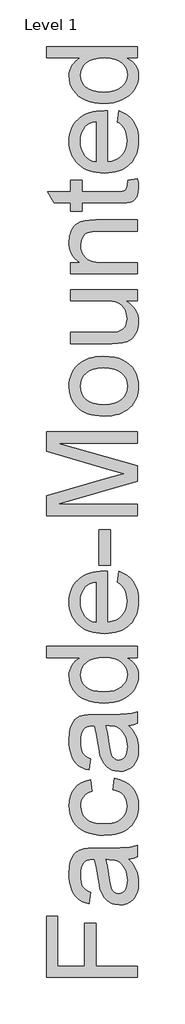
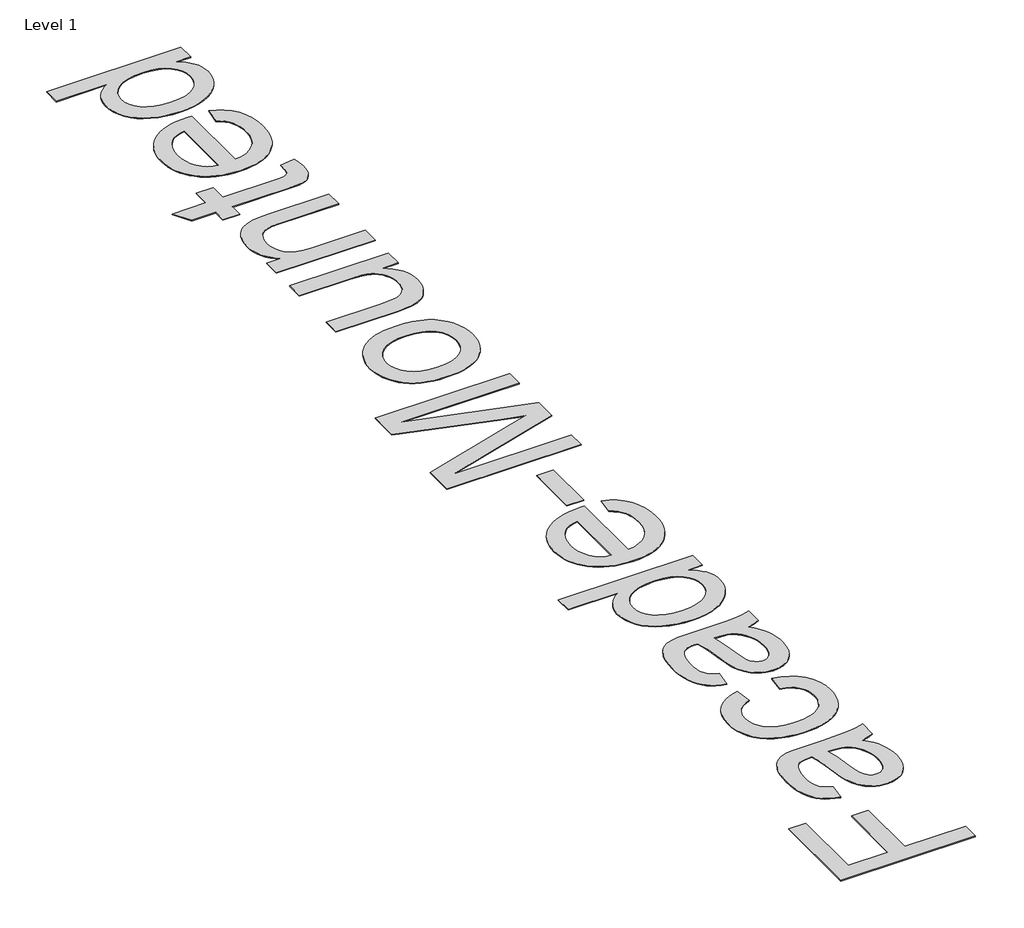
# One storey, part 20 of 47: 1 proxy.
"""IFC4 building model written with IfcOpenShell, lengths in millimetres."""

from ifc_helpers import new_model, si_unit, origin, origin_with_axes, place, context, project, spatial, polyline, outline, extrude, element, save

model = new_model("IFC4")

# Units and contexts
model_context = context("Model", 3, world=origin())
ifc_project = project(units=[si_unit("LENGTHUNIT", "METRE", prefix="MILLI")], contexts=[model_context])

# Site, building, storey
site = spatial("IfcSite", under=ifc_project)
building = spatial("IfcBuilding", under=site)
storey = spatial("IfcBuildingStorey", under=building, Name="Level 1", Elevation=0.0)

# Proxy
placement = place(None, origin())
element("IfcBuildingElementProxy", 1, Name="1000mm Arial", ObjectType="1000mm Arial", at=placement, inside=storey, context=model_context, shape_type="SweptSolid", body=[
    extrude(outline(polyline([(-21746.6295688, 35814.1157871), (-22751.1926703, 35814.1157871), (-22751.1926703, 36489.0566209), (-22625.6222826, 36489.0566209), (-22625.6222826, 35939.6861748), (-22327.3926119, 35939.6861748), (-22327.3926119, 36410.5751286), (-22201.8222242, 36410.5751286), (-22201.8222242, 35939.6861748), (-21746.6295688, 35939.6861748), (-21746.6295688, 35814.1157871)])), origin_with_axes(), (0.0, 0.0, 1.0), 5.0),
    extrude(outline(polyline([(-21840.8073596, 37116.9085593), (-21812.8636564, 37087.1331103), (-21789.3651939, 37056.9131373), (-21770.3119723, 37026.2486401), (-21755.7039914, 36995.1396189), (-21744.8668009, 36963.23352), (-21737.1259506, 36930.1777899), (-21732.4814404, 36895.9724286), (-21730.9332704, 36860.617436), (-21734.6580756, 36804.707037), (-21745.8324912, 36755.6790969), (-21764.4565172, 36713.5336158), (-21790.5301536, 36678.2705937), (-21822.3979314, 36650.4265252), (-21858.4043817, 36630.5379049), (-21898.5495044, 36618.6047326), (-21942.8332996, 36614.6270086), (-21994.8886019, 36620.6357478), (-22019.1228283, 36628.1466719), (-22042.1614383, 36638.6619656), (-22082.6284578, 36666.4677131), (-22114.2663093, 36701.8150414), (-22138.178639, 36743.35505), (-22155.4690928, 36789.7388383), (-22165.0953383, 36834.92701), (-22174.3537019, 36898.3866542), (-22194.2193296, 37026.7774705), (-22205.4397305, 37076.3495693), (-22217.5185227, 37116.1727953), (-22245.4775543, 37116.9085593), (-22275.9197894, 37114.7472526), (-22301.5182449, 37108.2633324), (-22322.2729208, 37097.4567988), (-22338.1838171, 37082.3276518), (-22354.0640565, 37056.1773733), (-22365.4070847, 37024.3249239), (-22372.2129016, 36986.7703035), (-22374.4815073, 36943.5135123), (-22372.9716582, 36903.2917475), (-22368.4421112, 36868.7108399), (-22360.8928661, 36839.7707896), (-22350.3239229, 36816.4715966), (-22335.9075472, 36797.3264044), (-22316.8160045, 36780.8483567), (-22293.0492948, 36767.0374535), (-22264.607418, 36755.8936947), (-22280.3037165, 36630.323307), (-22316.4787794, 36639.8805747), (-22348.9750223, 36652.1203152), (-22377.7924452, 36667.0425287), (-22402.9310482, 36684.647215), (-22424.896669, 36705.6931308), (-22444.1951454, 36730.9390327), (-22460.8264772, 36760.3849207), (-22474.7906646, 36794.0307949), (-22485.8424529, 36831.1945406), (-22493.7365874, 36871.1940434), (-22498.4730681, 36914.0293032), (-22500.051895, 36959.70032), (-22494.4723514, 37044.5890904), (-22487.4979219, 37080.4345923), (-22477.7337206, 37111.8808387), (-22452.5644607, 37162.6178972), (-22437.8415167, 37182.1692924), (-22421.69303, 37197.8425983), (-22383.525273, 37221.2031049), (-22336.4670344, 37236.3475804), (-22293.056959, 37240.9461054), (-22226.5929452, 37242.478947), (-22070.3657246, 37242.478947), (-21934.2800432, 37244.0731023), (-21852.2117014, 37248.8555683), (-21798.2863323, 37258.2978728), (-21746.6295688, 37273.8715439), (-21746.6295688, 37148.3011562), (-21790.2848989, 37128.1902738), (-21840.8073596, 37116.9085593)]), holes=[polyline([(-22091.948135, 37116.9085593), (-22071.0401749, 37032.5409551), (-22053.4431528, 36914.3282073), (-22043.8169073, 36849.1824373), (-22033.0870157, 36806.2935281), (-22019.1688136, 36778.1812123), (-21999.9776362, 36757.3652227), (-21976.9850115, 36744.4893529), (-21951.6624675, 36740.1973963), (-21932.1493933, 36742.5349798), (-21914.322445, 36749.5477303), (-21898.1816224, 36761.2356479), (-21883.7269257, 36777.5987324), (-21871.8167461, 36798.4836999), (-21863.309475, 36823.737266), (-21858.2051123, 36853.3594308), (-21856.5036581, 36887.3501943), (-21858.3813891, 36922.0537292), (-21864.0145821, 36954.7952268), (-21873.4032372, 36985.574687), (-21886.5473543, 37014.39211), (-21902.3586159, 37040.3891043), (-21919.7487044, 37062.7072787), (-21938.7176198, 37081.3466331), (-21959.265362, 37096.3071676), (-21977.6594618, 37104.9983797), (-21999.9776362, 37111.2063884), (-22056.3862088, 37116.1727953), (-22091.948135, 37116.9085593)])]), origin_with_axes(), (0.0, 0.0, 1.0), 5.0),
    extrude(outline(polyline([(-22013.4666427, 37886.0271839), (-21997.7703442, 38011.5975716), (-21938.5183504, 37997.9399525), (-21886.0875018, 37976.5874684), (-21840.4777986, 37947.5401192), (-21801.6892408, 37910.7979049), (-21770.7335037, 37867.9089956), (-21748.622263, 37820.4215614), (-21735.3555185, 37768.3356023), (-21730.9332704, 37711.6511182), (-21732.4756923, 37675.5277887), (-21737.102958, 37641.2247087), (-21744.8150675, 37608.7418782), (-21755.6120209, 37578.0792971), (-21769.493818, 37549.2369655), (-21786.460459, 37522.2148833), (-21806.5119438, 37497.0130506), (-21829.6482724, 37473.6314673), (-21855.6663433, 37452.5644749), (-21884.363055, 37434.3064149), (-21915.7384074, 37418.8572871), (-21949.7924007, 37406.2170917), (-21986.5250347, 37396.3858286), (-22025.9363095, 37389.3634978), (-22112.7947814, 37383.7456332), (-22170.529262, 37386.1445303), (-22224.5389374, 37393.3412219), (-22274.8238076, 37405.3357077), (-22321.3838726, 37422.127988), (-22363.284099, 37443.8330257), (-22399.5894534, 37470.565784), (-22430.2999358, 37502.3262629), (-22455.4155462, 37539.1144624), (-22474.9439488, 37579.2672494), (-22488.8928078, 37621.1214905), (-22497.2621232, 37664.6771859), (-22500.051895, 37709.9343355), (-22496.2197908, 37765.6454652), (-22484.7234785, 37816.0376343), (-22465.5629579, 37861.1108429), (-22438.7382291, 37900.865091), (-22404.8624287, 37934.6259283), (-22364.5486934, 37961.7189044), (-22317.7970232, 37982.1440193), (-22264.607418, 37995.9012731), (-22248.9111196, 37870.3308854), (-22278.2420445, 37860.5283631), (-22303.69488, 37847.5528586), (-22325.2696262, 37831.4043718), (-22342.966283, 37812.0829029), (-22356.7541936, 37790.078961), (-22366.6027012, 37765.8830556), (-22372.5118058, 37739.4951867), (-22374.4815073, 37710.9153542), (-22370.6034179, 37668.248707), (-22358.9691498, 37629.7667174), (-22339.578703, 37595.4693856), (-22312.4320774, 37565.3567114), (-22276.900808, 37540.8389093), (-22232.3564298, 37523.3261935), (-22178.7989427, 37512.818564), (-22116.2283467, 37509.3160208), (-22052.715053, 37512.7419219), (-21998.536765, 37523.0196252), (-21953.6934827, 37540.1491306), (-21918.1852059, 37564.1304381), (-21891.1995287, 37593.645304), (-21871.924045, 37627.3754845), (-21860.3587548, 37665.3209794), (-21856.5036581, 37707.4817889), (-21858.9102194, 37741.457224), (-21866.1299036, 37772.5049316), (-21878.1627105, 37800.6249116), (-21895.0086402, 37825.817164), (-21916.8516337, 37847.3765818), (-21943.8756319, 37864.5980577), (-21976.0806349, 37877.4815917), (-22013.4666427, 37886.0271839)])), origin_with_axes(), (0.0, 0.0, 1.0), 5.0),
    extrude(outline(polyline([(-21840.8073596, 38592.3606146), (-21812.8636564, 38562.5851657), (-21789.3651939, 38532.3651926), (-21770.3119723, 38501.7006955), (-21755.7039914, 38470.5916742), (-21744.8668009, 38438.6855754), (-21737.1259506, 38405.6298453), (-21732.4814404, 38371.4244839), (-21730.9332704, 38336.0694913), (-21734.6580756, 38280.1590923), (-21745.8324912, 38231.1311522), (-21764.4565172, 38188.9856711), (-21790.5301536, 38153.7226491), (-21822.3979314, 38125.8785805), (-21858.4043817, 38105.9899602), (-21898.5495044, 38094.056788), (-21942.8332996, 38090.0790639), (-21994.8886019, 38096.0878031), (-22019.1228283, 38103.5987272), (-22042.1614383, 38114.1140209), (-22082.6284578, 38141.9197684), (-22114.2663093, 38177.2670967), (-22138.178639, 38218.8071054), (-22155.4690928, 38265.1908936), (-22165.0953383, 38310.3790653), (-22174.3537019, 38373.8387095), (-22194.2193296, 38502.2295258), (-22205.4397305, 38551.8016247), (-22217.5185227, 38591.6248506), (-22245.4775543, 38592.3606146), (-22275.9197894, 38590.1993079), (-22301.5182449, 38583.7153878), (-22322.2729208, 38572.9088541), (-22338.1838171, 38557.7797071), (-22354.0640565, 38531.6294286), (-22365.4070847, 38499.7769792), (-22372.2129016, 38462.2223588), (-22374.4815073, 38418.9655676), (-22372.9716582, 38378.7438028), (-22368.4421112, 38344.1628952), (-22360.8928661, 38315.2228449), (-22350.3239229, 38291.9236519), (-22335.9075472, 38272.7784597), (-22316.8160045, 38256.300412), (-22293.0492948, 38242.4895088), (-22264.607418, 38231.34575), (-22280.3037165, 38105.7753624), (-22316.4787794, 38115.33263), (-22348.9750223, 38127.5723706), (-22377.7924452, 38142.494584), (-22402.9310482, 38160.0992703), (-22424.896669, 38181.1451861), (-22444.1951454, 38206.391088), (-22460.8264772, 38235.8369761), (-22474.7906646, 38269.4828502), (-22485.8424529, 38306.6465959), (-22493.7365874, 38346.6460987), (-22498.4730681, 38389.4813585), (-22500.051895, 38435.1523754), (-22494.4723514, 38520.0411458), (-22487.4979219, 38555.8866477), (-22477.7337206, 38587.332894), (-22452.5644607, 38638.0699525), (-22437.8415167, 38657.6213477), (-22421.69303, 38673.2946536), (-22383.525273, 38696.6551603), (-22336.4670344, 38711.7996357), (-22293.056959, 38716.3981607), (-22226.5929452, 38717.9310023), (-22070.3657246, 38717.9310023), (-21934.2800432, 38719.5251576), (-21852.2117014, 38724.3076236), (-21798.2863323, 38733.7499281), (-21746.6295688, 38749.3235992), (-21746.6295688, 38623.7532116), (-21790.2848989, 38603.6423292), (-21840.8073596, 38592.3606146)]), holes=[polyline([(-22091.948135, 38592.3606146), (-22071.0401749, 38507.9930104), (-22053.4431528, 38389.7802626), (-22043.8169073, 38324.6344926), (-22033.0870157, 38281.7455834), (-22019.1688136, 38253.6332676), (-21999.9776362, 38232.817278), (-21976.9850115, 38219.9414082), (-21951.6624675, 38215.6494516), (-21932.1493933, 38217.9870351), (-21914.322445, 38224.9997856), (-21898.1816224, 38236.6877032), (-21883.7269257, 38253.0507878), (-21871.8167461, 38273.9357552), (-21863.309475, 38299.1893213), (-21858.2051123, 38328.8114861), (-21856.5036581, 38362.8022496), (-21858.3813891, 38397.5057845), (-21864.0145821, 38430.2472821), (-21873.4032372, 38461.0267424), (-21886.5473543, 38489.8441653), (-21902.3586159, 38515.8411596), (-21919.7487044, 38538.159334), (-21938.7176198, 38556.7986884), (-21959.265362, 38571.7592229), (-21977.6594618, 38580.450435), (-21999.9776362, 38586.6584437), (-22056.3862088, 38591.6248506), (-22091.948135, 38592.3606146)])]), origin_with_axes(), (0.0, 0.0, 1.0), 5.0),
    extrude(outline(polyline([(-21746.6295688, 39345.7829408), (-21865.0875713, 39345.7829408), (-21833.645157, 39327.9904813), (-21806.3950646, 39308.212992), (-21783.3372942, 39286.4504727), (-21764.4718456, 39262.7029235), (-21749.7987189, 39236.9703444), (-21739.3179142, 39209.2527353), (-21733.0294313, 39179.5500963), (-21730.9332704, 39147.8624274), (-21733.9682968, 39106.4143892), (-21743.0733762, 39066.6831338), (-21758.2485085, 39028.6686609), (-21779.4936937, 38992.3709707), (-21806.1728026, 38958.924366), (-21837.6497058, 38929.4631496), (-21873.9244034, 38903.9873214), (-21914.9968953, 38882.4968815), (-21960.0854323, 38865.436354), (-22008.4082652, 38853.2502629), (-22059.965394, 38845.9386082), (-22114.7568187, 38843.50139), (-22168.5442321, 38845.747003), (-22219.7871283, 38852.4838421), (-22268.4855074, 38863.7119071), (-22314.6393694, 38879.4311982), (-22356.8998136, 38899.6340511), (-22393.9179393, 38924.3128016), (-22425.6937467, 38953.4674497), (-22452.2272356, 38987.0979955), (-22473.1505241, 39024.0164865), (-22488.0957301, 39063.0349706), (-22497.0628537, 39104.1534478), (-22500.051895, 39147.371918), (-22497.9135809, 39178.9791128), (-22491.4986386, 39208.8082112), (-22480.8070681, 39236.8592134), (-22465.8388694, 39263.1321192), (-22447.4524339, 39287.3356888), (-22426.5061528, 39309.1786822), (-22403.0000261, 39328.6610996), (-22376.9340539, 39345.7829408), (-22751.1926703, 39345.7829408), (-22751.1926703, 39471.3533284), (-21746.6295688, 39471.3533284), (-21746.6295688, 39345.7829408)]), holes=[polyline([(-22115.247328, 38969.0717777), (-22054.3551936, 38972.6126419), (-22001.663762, 38983.2352345), (-21957.1730332, 39000.9395555), (-21920.8830072, 39025.725605), (-21892.717042, 39055.3247772), (-21872.5984953, 39087.4684665), (-21860.5273674, 39122.1566729), (-21856.5036581, 39159.3893965), (-21860.3434264, 39196.7983969), (-21871.8627314, 39231.2796698), (-21891.061573, 39262.8332151), (-21917.9399513, 39291.4590328), (-21952.712464, 39315.2257425), (-21995.5937091, 39332.2019638), (-22046.5836864, 39342.3876965), (-22105.6823961, 39345.7829408), (-22170.4756125, 39342.3263828), (-22226.0411222, 39331.9567091), (-22272.3789252, 39314.6739195), (-22309.4890215, 39290.4780142), (-22337.923234, 39261.2237313), (-22358.2333858, 39228.7658095), (-22370.4194769, 39193.1042486), (-22374.4815073, 39154.2390486), (-22370.5804253, 39116.270561), (-22358.8771793, 39081.5823546), (-22339.3717694, 39050.1744292), (-22312.0641954, 39022.046785), (-22276.3566493, 38998.8702193), (-22231.6513226, 38982.3155295), (-22177.9482156, 38972.3827157), (-22115.247328, 38969.0717777)])]), origin_with_axes(), (0.0, 0.0, 1.0), 5.0),
    extrude(outline(polyline([(-21966.3777473, 40176.2152312), (-21950.6814488, 40299.3330723), (-21901.3699331, 40280.4561274), (-21857.9138724, 40254.972635), (-21820.3132668, 40222.8825951), (-21788.5681163, 40184.1860078), (-21763.3528712, 40139.2814117), (-21745.3419818, 40088.5673459), (-21734.5354482, 40032.0438101), (-21730.9332704, 39969.7108046), (-21732.4871886, 39929.6921413), (-21737.1489432, 39891.7964637), (-21744.9185343, 39856.0237718), (-21755.7959619, 39822.3740655), (-21769.7812259, 39790.8473449), (-21786.8743263, 39761.4436101), (-21807.0752631, 39734.1628609), (-21830.3840364, 39709.0050973), (-21856.4979099, 39686.4148436), (-21885.1141474, 39666.8366236), (-21916.2327489, 39650.2704375), (-21949.8537143, 39636.7162853), (-21985.9770438, 39626.1741669), (-22024.6027372, 39618.6440823), (-22065.7307947, 39614.1260315), (-22109.3612161, 39612.6200146), (-22154.4765778, 39614.1413599), (-22196.993773, 39618.7053959), (-22236.9128016, 39626.3121226), (-22274.2336636, 39636.9615399), (-22308.956359, 39650.653648), (-22341.0808878, 39667.3884466), (-22370.60725, 39687.165936), (-22397.5354456, 39709.986116), (-22421.5627384, 39735.2320179), (-22442.3863922, 39762.286673), (-22460.0064069, 39791.1500812), (-22474.4227826, 39821.8222425), (-22485.6355193, 39854.303157), (-22493.6446169, 39888.5928246), (-22498.4500754, 39924.6912454), (-22500.051895, 39962.5984193), (-22498.4539075, 39999.2659076), (-22493.6599453, 40034.2204453), (-22485.6700082, 40067.4620324), (-22474.4840963, 40098.9906691), (-22460.1022095, 40128.8063551), (-22442.524348, 40156.9090907), (-22421.7505115, 40183.2988757), (-22397.7807003, 40207.9757101), (-22370.9138183, 40230.3072969), (-22341.4487698, 40249.6613387), (-22309.3855546, 40266.0378356), (-22274.7241729, 40279.4367877), (-22237.4646246, 40289.8581948), (-22197.6069097, 40297.3020571), (-22110.0969801, 40303.2571469), (-22076.2518365, 40302.5213829), (-22076.2518365, 39738.1904023), (-22026.1432431, 39745.4637359), (-21982.2579867, 39759.9260968), (-21944.5960675, 39781.5774851), (-21913.1574853, 39810.4179007), (-21888.3714359, 39844.8531883), (-21870.6671149, 39883.2891925), (-21860.0445223, 39925.7259135), (-21856.5036581, 39972.1633512), (-21858.1437986, 40006.8975429), (-21863.0642203, 40038.995247), (-21871.2649231, 40068.4564635), (-21882.745907, 40095.2811923), (-21897.8137404, 40119.4694335), (-21916.7749916, 40141.021187), (-21939.6296606, 40159.9364529), (-21966.3777473, 40176.2152312)]), holes=[polyline([(-22201.8222242, 39738.1904023), (-22201.8222242, 40177.6867592), (-22237.3534936, 40171.2334959), (-22268.1636107, 40160.7028737), (-22294.2525755, 40146.0948929), (-22315.620388, 40127.4095532), (-22341.3721277, 40093.1658708), (-22359.7662275, 40054.2010361), (-22370.8026873, 40010.5150492), (-22374.4815073, 39962.10791), (-22371.5461155, 39917.9544064), (-22362.7399403, 39877.4643943), (-22348.0629815, 39840.6378737), (-22327.5152392, 39807.4748447), (-22302.0470753, 39779.6461046), (-22272.6088514, 39758.8224508), (-22239.2005677, 39745.0038834), (-22201.8222242, 39738.1904023)])]), origin_with_axes(), (0.0, 0.0, 1.0), 5.0),
    extrude(outline(polyline([(-22044.8592396, 40366.0423407), (-22170.4296273, 40366.0423407), (-22170.4296273, 40758.4498022), (-22044.8592396, 40758.4498022), (-22044.8592396, 40366.0423407)])), origin_with_axes(), (0.0, 0.0, 1.0), 5.0),
    extrude(outline(polyline([(-21746.6295688, 40915.4127868), (-22751.1926703, 40915.4127868), (-22751.1926703, 41131.4821453), (-22043.1424569, 41337.0055533), (-21895.2538949, 41378.4535914), (-22055.4051901, 41423.3351949), (-22751.1926703, 41625.4250375), (-22751.1926703, 41841.494396), (-21746.6295688, 41841.494396), (-21746.6295688, 41715.9240084), (-22625.6222826, 41715.9240084), (-21746.6295688, 41463.5569597), (-21746.6295688, 41293.3502232), (-22625.6222826, 41040.9831745), (-21746.6295688, 41040.9831745), (-21746.6295688, 40915.4127868)])), origin_with_axes(), (0.0, 0.0, 1.0), 5.0),
    extrude(outline(polyline([(-22115.4925827, 42014.1536791), (-22164.9152295, 42015.8513012), (-22211.0346025, 42020.9441676), (-22253.8507018, 42029.4322782), (-22293.3635273, 42041.3156331), (-22329.5730791, 42056.5942322), (-22362.4793572, 42075.2680756), (-22392.0823615, 42097.3371632), (-22418.382092, 42122.801495), (-22454.1126308, 42170.6568112), (-22479.6344442, 42223.4785344), (-22494.9475323, 42281.2666644), (-22500.051895, 42344.0212015), (-22498.4979767, 42379.4892411), (-22493.8362221, 42413.2979797), (-22486.066631, 42445.4474172), (-22475.1892034, 42475.9375536), (-22461.2039395, 42504.7683889), (-22444.1108391, 42531.9399231), (-22423.9099022, 42557.4521563), (-22400.6011289, 42581.3050883), (-22374.5524012, 42602.8894148), (-22346.131601, 42621.595831), (-22315.3387284, 42637.4243371), (-22282.1737833, 42650.3749329), (-22246.6367658, 42660.4476186), (-22208.7276758, 42667.6423941), (-22125.7932785, 42673.3982145), (-22058.5781723, 42670.8536973), (-21998.9353039, 42663.2201459), (-21946.8646731, 42650.4975603), (-21902.3662801, 42632.6859403), (-21863.9302758, 42610.0075482), (-21830.0468112, 42582.6846458), (-21800.7158863, 42550.7172333), (-21775.9375011, 42514.1053106), (-21756.2481502, 42474.2744204), (-21742.1843281, 42432.6501055), (-21733.7460348, 42389.2323658), (-21730.9332704, 42344.0212015), (-21732.4814404, 42307.9936746), (-21737.1259506, 42273.7327477), (-21744.8668009, 42241.2384209), (-21755.7039914, 42210.510694), (-21769.6375219, 42181.5495672), (-21786.6673926, 42154.3550403), (-21806.7936035, 42128.9271134), (-21830.0161544, 42105.2657866), (-21856.1511045, 42083.9113864), (-21885.0145127, 42065.4042396), (-21916.606379, 42049.7443461), (-21950.9267035, 42036.931706), (-21987.9754861, 42026.9663192), (-22027.7527268, 42019.8481858), (-22115.4925827, 42014.1536791)]), holes=[polyline([(-22115.7378373, 42139.7240668), (-22054.8303745, 42143.3569015), (-22002.0929576, 42154.2554056), (-21957.5255868, 42172.4195791), (-21921.1282619, 42197.849422), (-21892.8549977, 42228.7821665), (-21872.659809, 42263.4550445), (-21860.5426958, 42301.8680562), (-21856.5036581, 42344.0212015), (-21860.5656884, 42385.9597489), (-21872.7517795, 42424.2194764), (-21893.0619313, 42458.8003839), (-21921.4961439, 42489.7024715), (-21958.2536866, 42515.1323145), (-22003.5338288, 42533.296488), (-22057.3365706, 42544.1949921), (-22119.6619119, 42547.8278268), (-22178.6379943, 42544.1719995), (-22229.9958537, 42533.2045175), (-22273.73549, 42514.9253808), (-22309.8569034, 42489.3345895), (-22338.1301676, 42458.3175388), (-22358.3253563, 42423.7596239), (-22370.4424695, 42385.6608448), (-22374.4815073, 42344.0212015), (-22370.4577979, 42301.8680562), (-22358.38667, 42263.4550445), (-22338.2681234, 42228.7821665), (-22310.1021581, 42197.849422), (-22273.8121321, 42172.4195791), (-22229.3214033, 42154.2554056), (-22176.6299717, 42143.3569015), (-22115.7378373, 42139.7240668)])]), origin_with_axes(), (0.0, 0.0, 1.0), 5.0),
    extrude(outline(polyline([(-21746.6295688, 43285.5538544), (-21873.4262298, 43285.5538544), (-21840.0294425, 43263.7721746), (-21811.0855601, 43240.120428), (-21786.5945827, 43214.5986146), (-21766.5565102, 43187.2067344), (-21750.9713428, 43157.9447874), (-21739.8390803, 43126.8127735), (-21733.1597229, 43093.8106929), (-21730.9332704, 43058.9385454), (-21732.4967689, 43027.8295242), (-21737.1872643, 42997.7781637), (-21745.0047567, 42968.784464), (-21755.949246, 42940.848425), (-21784.1535323, 42893.0850793), (-21800.6469085, 42874.4917101), (-21818.7344399, 42859.4238767), (-21860.734301, 42836.7684772), (-21911.195448, 42822.0225405), (-21958.7748527, 42816.5043106), (-22027.9366678, 42814.6649006), (-22484.3555965, 42814.6649006), (-22484.3555965, 42940.2352883), (-22087.0430417, 42940.2352883), (-22007.5805307, 42942.1360119), (-21959.0201074, 42947.8381829), (-21936.3877005, 42955.3567711), (-21916.3151391, 42966.1403121), (-21898.8024233, 42980.1888058), (-21883.849553, 42997.5022522), (-21871.885724, 43017.5594852), (-21863.3401318, 43039.8393385), (-21858.2127765, 43064.3418122), (-21856.5036581, 43091.0669063), (-21858.2510975, 43118.5890781), (-21863.493416, 43145.2375301), (-21872.2306134, 43171.0122624), (-21884.4626897, 43195.9132749), (-21899.7067999, 43218.5916671), (-21917.4800988, 43237.6985382), (-21937.7825864, 43253.2338883), (-21960.6142627, 43265.1977174), (-21987.4313273, 43274.1035273), (-22019.6899798, 43280.4648202), (-22100.5320482, 43285.5538544), (-22484.3555965, 43285.5538544), (-22484.3555965, 43411.1242421), (-21746.6295688, 43411.1242421), (-21746.6295688, 43285.5538544)])), origin_with_axes(), (0.0, 0.0, 1.0), 5.0),
    extrude(outline(polyline([(-21746.6295688, 43583.7835252), (-22484.3555965, 43583.7835252), (-22484.3555965, 43709.3539129), (-22381.3486378, 43709.3539129), (-22409.1697137, 43730.0702677), (-22433.2813128, 43752.9785861), (-22453.6834351, 43778.0788681), (-22470.3760807, 43805.3711136), (-22483.3592494, 43834.8553227), (-22492.6329414, 43866.5314953), (-22498.1971566, 43900.3996315), (-22500.051895, 43936.4597312), (-22494.0738125, 43998.3558769), (-22486.6012095, 44027.3495767), (-22476.1395653, 44055.040361), (-22463.248367, 44080.3782334), (-22448.487102, 44102.3131974), (-22431.8557701, 44120.8452529), (-22413.3543714, 44135.9744), (-22370.8333441, 44158.8137405), (-22321.0159906, 44173.6209908), (-22273.3752723, 44178.5873977), (-22199.6149322, 44180.2428667), (-21746.6295688, 44180.2428667), (-21746.6295688, 44054.672479), (-22182.6923604, 44054.672479), (-22247.6235326, 44051.0549727), (-22293.792723, 44040.2024539), (-22311.2594536, 44031.5802196), (-22326.8714457, 44020.183542), (-22340.6286995, 44006.012421), (-22352.5312149, 43989.0668566), (-22368.9939342, 43949.1823169), (-22374.4815073, 43902.8598423), (-22371.4004956, 43864.7304064), (-22362.1574604, 43829.3141001), (-22346.7524019, 43796.6109236), (-22325.1853199, 43766.6208768), (-22295.0036679, 43741.5665801), (-22253.7548992, 43723.6706539), (-22201.4390138, 43712.9330981), (-22138.0560117, 43709.3539129), (-21746.6295688, 43709.3539129), (-21746.6295688, 43583.7835252)])), origin_with_axes(), (0.0, 0.0, 1.0), 5.0),
    extrude(outline(polyline([(-21851.3533101, 44619.7392236), (-21742.9507489, 44635.4355221), (-21733.93764, 44585.7101391), (-21730.9332704, 44541.502986), (-21736.144932, 44481.2316524), (-21742.659509, 44456.8441418), (-21751.7799168, 44436.2887354), (-21775.8761874, 44404.5282564), (-21790.361541, 44392.7866894), (-21806.4717067, 44383.8042374), (-21828.0694455, 44377.1517046), (-21859.0175184, 44372.3998955), (-21948.9646662, 44368.5984482), (-22358.7852088, 44368.5984482), (-22358.7852088, 44274.4206575), (-22484.3555965, 44274.4206575), (-22484.3555965, 44368.5984482), (-22663.6367555, 44368.5984482), (-22737.4584092, 44494.1688359), (-22484.3555965, 44494.1688359), (-22484.3555965, 44619.7392236), (-22358.7852088, 44619.7392236), (-22358.7852088, 44494.1688359), (-21952.6434861, 44494.1688359), (-21911.3180753, 44495.8243049), (-21887.896255, 44500.7907118), (-21874.9284146, 44509.4665956), (-21864.9649439, 44522.2504949), (-21858.6189795, 44540.3686832), (-21856.5036581, 44565.0474337), (-21851.3533101, 44619.7392236)])), origin_with_axes(), (0.0, 0.0, 1.0), 5.0),
    extrude(outline(polyline([(-21966.3777473, 45261.8159325), (-21950.6814488, 45384.9337736), (-21901.3699331, 45366.0568287), (-21857.9138724, 45340.5733363), (-21820.3132668, 45308.4832965), (-21788.5681163, 45269.7867091), (-21763.3528712, 45224.8821131), (-21745.3419818, 45174.1680472), (-21734.5354482, 45117.6445115), (-21730.9332704, 45055.3115059), (-21732.4871886, 45015.2928426), (-21737.1489432, 44977.397165), (-21744.9185343, 44941.6244731), (-21755.7959619, 44907.9747668), (-21769.7812259, 44876.4480463), (-21786.8743263, 44847.0443114), (-21807.0752631, 44819.7635622), (-21830.3840364, 44794.6057987), (-21856.4979099, 44772.0155449), (-21885.1141474, 44752.437325), (-21916.2327489, 44735.8711389), (-21949.8537143, 44722.3169866), (-21985.9770438, 44711.7748682), (-22024.6027372, 44704.2447836), (-22065.7307947, 44699.7267328), (-22109.3612161, 44698.2207159), (-22154.4765778, 44699.7420613), (-22196.993773, 44704.3060973), (-22236.9128016, 44711.9128239), (-22274.2336636, 44722.5622413), (-22308.956359, 44736.2543493), (-22341.0808878, 44752.989148), (-22370.60725, 44772.7666373), (-22397.5354456, 44795.5868173), (-22421.5627384, 44820.8327192), (-22442.3863922, 44847.8873743), (-22460.0064069, 44876.7507825), (-22474.4227826, 44907.4229438), (-22485.6355193, 44939.9038583), (-22493.6446169, 44974.193526), (-22498.4500754, 45010.2919467), (-22500.051895, 45048.1991207), (-22498.4539075, 45084.8666089), (-22493.6599453, 45119.8211466), (-22485.6700082, 45153.0627338), (-22474.4840963, 45184.5913704), (-22460.1022095, 45214.4070565), (-22442.524348, 45242.509792), (-22421.7505115, 45268.899577), (-22397.7807003, 45293.5764114), (-22370.9138183, 45315.9079982), (-22341.4487698, 45335.26204), (-22309.3855546, 45351.638537), (-22274.7241729, 45365.037489), (-22237.4646246, 45375.4588962), (-22197.6069097, 45382.9027584), (-22110.0969801, 45388.8578482), (-22076.2518365, 45388.1220842), (-22076.2518365, 44823.7911036), (-22026.1432431, 44831.0644372), (-21982.2579867, 44845.5267982), (-21944.5960675, 44867.1781864), (-21913.1574853, 44896.018602), (-21888.3714359, 44930.4538896), (-21870.6671149, 44968.8898939), (-21860.0445223, 45011.3266149), (-21856.5036581, 45057.7640525), (-21858.1437986, 45092.4982443), (-21863.0642203, 45124.5959483), (-21871.2649231, 45154.0571648), (-21882.745907, 45180.8818936), (-21897.8137404, 45205.0701348), (-21916.7749916, 45226.6218883), (-21939.6296606, 45245.5371542), (-21966.3777473, 45261.8159325)]), holes=[polyline([(-22201.8222242, 44823.7911036), (-22201.8222242, 45263.2874605), (-22237.3534936, 45256.8341972), (-22268.1636107, 45246.3035751), (-22294.2525755, 45231.6955942), (-22315.620388, 45213.0102545), (-22341.3721277, 45178.7665721), (-22359.7662275, 45139.8017375), (-22370.8026873, 45096.1157505), (-22374.4815073, 45047.7086113), (-22371.5461155, 45003.5551077), (-22362.7399403, 44963.0650956), (-22348.0629815, 44926.2385751), (-22327.5152392, 44893.075546), (-22302.0470753, 44865.2468059), (-22272.6088514, 44844.4231522), (-22239.2005677, 44830.6045847), (-22201.8222242, 44823.7911036)])]), origin_with_axes(), (0.0, 0.0, 1.0), 5.0),
    extrude(outline(polyline([(-21746.6295688, 45969.6208913), (-21865.0875713, 45969.6208913), (-21833.645157, 45951.8284318), (-21806.3950646, 45932.0509425), (-21783.3372942, 45910.2884232), (-21764.4718456, 45886.540874), (-21749.7987189, 45860.8082949), (-21739.3179142, 45833.0906858), (-21733.0294313, 45803.3880468), (-21730.9332704, 45771.7003778), (-21733.9682968, 45730.2523397), (-21743.0733762, 45690.5210842), (-21758.2485085, 45652.5066114), (-21779.4936937, 45616.2089212), (-21806.1728026, 45582.7623165), (-21837.6497058, 45553.3011), (-21873.9244034, 45527.8252719), (-21914.9968953, 45506.334832), (-21960.0854323, 45489.2743045), (-22008.4082652, 45477.0882134), (-22059.965394, 45469.7765587), (-22114.7568187, 45467.3393405), (-22168.5442321, 45469.5849535), (-22219.7871283, 45476.3217926), (-22268.4855074, 45487.5498576), (-22314.6393694, 45503.2691487), (-22356.8998136, 45523.4720016), (-22393.9179393, 45548.1507521), (-22425.6937467, 45577.3054002), (-22452.2272356, 45610.935946), (-22473.1505241, 45647.854437), (-22488.0957301, 45686.8729211), (-22497.0628537, 45727.9913983), (-22500.051895, 45771.2098685), (-22497.9135809, 45802.8170633), (-22491.4986386, 45832.6461617), (-22480.8070681, 45860.6971638), (-22465.8388694, 45886.9700697), (-22447.4524339, 45911.1736393), (-22426.5061528, 45933.0166327), (-22403.0000261, 45952.4990501), (-22376.9340539, 45969.6208913), (-22751.1926703, 45969.6208913), (-22751.1926703, 46095.1912789), (-21746.6295688, 46095.1912789), (-21746.6295688, 45969.6208913)]), holes=[polyline([(-22115.247328, 45592.9097282), (-22054.3551936, 45596.4505924), (-22001.663762, 45607.073185), (-21957.1730332, 45624.777506), (-21920.8830072, 45649.5635554), (-21892.717042, 45679.1627276), (-21872.5984953, 45711.306417), (-21860.5273674, 45745.9946234), (-21856.5036581, 45783.227347), (-21860.3434264, 45820.6363474), (-21871.8627314, 45855.1176203), (-21891.061573, 45886.6711655), (-21917.9399513, 45915.2969833), (-21952.712464, 45939.063693), (-21995.5937091, 45956.0399143), (-22046.5836864, 45966.225647), (-22105.6823961, 45969.6208913), (-22170.4756125, 45966.1643333), (-22226.0411222, 45955.7946596), (-22272.3789252, 45938.51187), (-22309.4890215, 45914.3159646), (-22337.923234, 45885.0616818), (-22358.2333858, 45852.60376), (-22370.4194769, 45816.942199), (-22374.4815073, 45778.0769991), (-22370.5804253, 45740.1085115), (-22358.8771793, 45705.420305), (-22339.3717694, 45674.0123797), (-22312.0641954, 45645.8847355), (-22276.3566493, 45622.7081698), (-22231.6513226, 45606.15348), (-22177.9482156, 45596.2206661), (-22115.247328, 45592.9097282)])]), origin_with_axes(), (0.0, 0.0, 1.0), 5.0),
])

save(model, "model.ifc")
